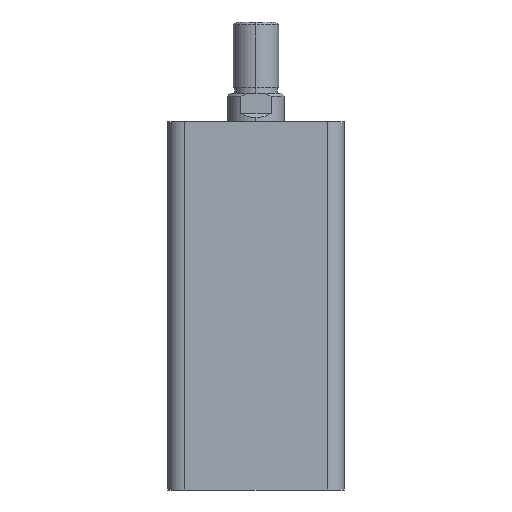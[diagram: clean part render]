
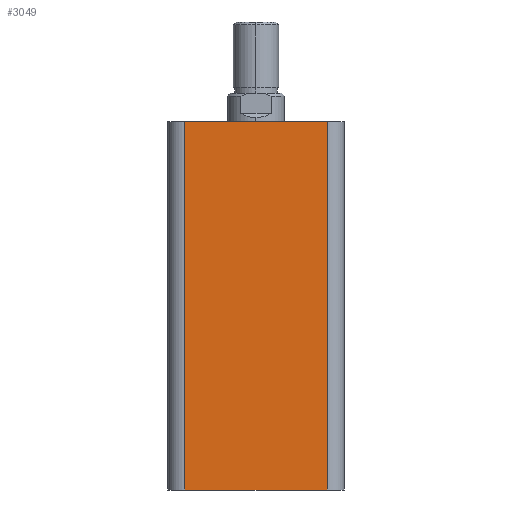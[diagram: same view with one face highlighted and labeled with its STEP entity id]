
A CAD part, left-side view. The second image highlights one B-rep face of the part: STEP entity #3049.
In plain terms, the highlighted planar face has unit normal (-1, 0, 0).
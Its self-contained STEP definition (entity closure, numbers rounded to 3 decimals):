
#294 = AXIS2_PLACEMENT_3D ( 'NONE', #891, #897, #898 ) ;
#891 = CARTESIAN_POINT ( 'NONE',  ( -31., 31., 129. ) ) ;
#895 = PLANE ( 'NONE',  #294 ) ;
#897 = DIRECTION ( 'NONE',  ( 1., 0., 0. ) ) ;
#898 = DIRECTION ( 'NONE',  ( 0., 0., -1. ) ) ;
#1707 = CARTESIAN_POINT ( 'NONE',  ( -31., -25., 0. ) ) ;
#1708 = CARTESIAN_POINT ( 'NONE',  ( -31., 25., 0. ) ) ;
#1730 = CARTESIAN_POINT ( 'NONE',  ( -31., -25., 129. ) ) ;
#1751 = CARTESIAN_POINT ( 'NONE',  ( -31., 25., 129. ) ) ;
#1803 = CARTESIAN_POINT ( 'NONE',  ( -31., -25., 129. ) ) ;
#1804 = DIRECTION ( 'NONE',  ( 0., 0., 1. ) ) ;
#1805 = CARTESIAN_POINT ( 'NONE',  ( -31., 25., 129. ) ) ;
#1806 = DIRECTION ( 'NONE',  ( 0., 0., -1. ) ) ;
#2130 = LINE ( 'NONE', #4448, #2132 ) ;
#2132 = VECTOR ( 'NONE', #4449, 1000. ) ;
#2169 = LINE ( 'NONE', #4618, #2173 ) ;
#2173 = VECTOR ( 'NONE', #4616, 1000. ) ;
#2256 = FACE_OUTER_BOUND ( 'NONE', #3640, .T. ) ;
#2558 = LINE ( 'NONE', #1803, #2569 ) ;
#2568 = LINE ( 'NONE', #1805, #2571 ) ;
#2569 = VECTOR ( 'NONE', #1804, 1000. ) ;
#2571 = VECTOR ( 'NONE', #1806, 1000. ) ;
#2763 = EDGE_CURVE ( 'NONE', #5126, #5105, #2130, .T. ) ;
#2798 = EDGE_CURVE ( 'NONE', #5083, #5082, #2169, .T. ) ;
#3049 = ADVANCED_FACE ( 'NONE', ( #2256 ), #895, .F. ) ;
#3640 = EDGE_LOOP ( 'NONE', ( #4142, #4143, #4144, #4145 ) ) ;
#4142 = ORIENTED_EDGE ( 'NONE', *, *, #2798, .T. ) ;
#4143 = ORIENTED_EDGE ( 'NONE', *, *, #5178, .T. ) ;
#4144 = ORIENTED_EDGE ( 'NONE', *, *, #2763, .F. ) ;
#4145 = ORIENTED_EDGE ( 'NONE', *, *, #5179, .T. ) ;
#4448 = CARTESIAN_POINT ( 'NONE',  ( -31., 31., 129. ) ) ;
#4449 = DIRECTION ( 'NONE',  ( 0., -1., 0. ) ) ;
#4616 = DIRECTION ( 'NONE',  ( 0., -1., 0. ) ) ;
#4618 = CARTESIAN_POINT ( 'NONE',  ( -31., 31., 0. ) ) ;
#5082 = VERTEX_POINT ( 'NONE', #1707 ) ;
#5083 = VERTEX_POINT ( 'NONE', #1708 ) ;
#5105 = VERTEX_POINT ( 'NONE', #1730 ) ;
#5126 = VERTEX_POINT ( 'NONE', #1751 ) ;
#5178 = EDGE_CURVE ( 'NONE', #5082, #5105, #2558, .T. ) ;
#5179 = EDGE_CURVE ( 'NONE', #5126, #5083, #2568, .T. ) ;
